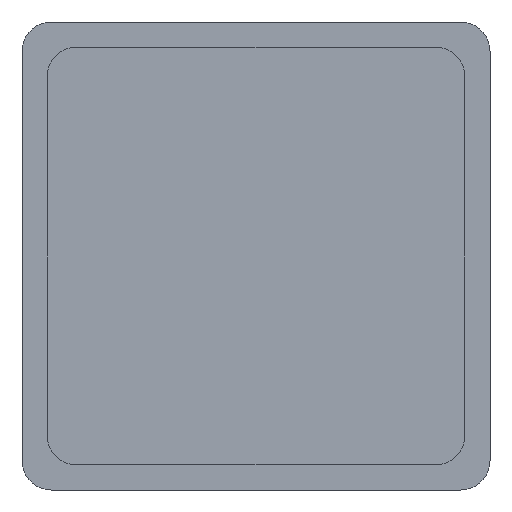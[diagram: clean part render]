
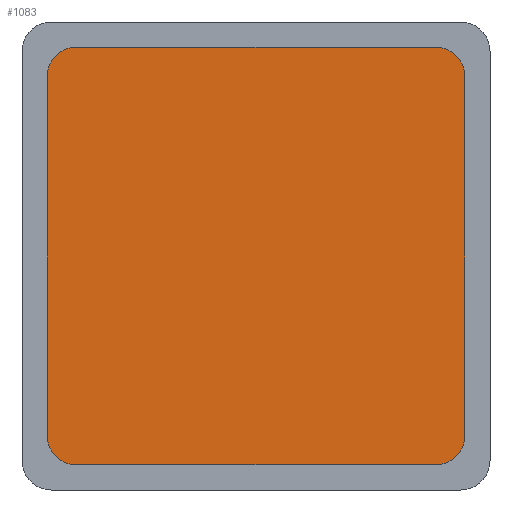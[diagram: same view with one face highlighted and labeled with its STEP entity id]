
A CAD part, front view. The second image highlights one B-rep face of the part: STEP entity #1083.
In plain terms, the highlighted planar face has unit normal (0, -1, 0).
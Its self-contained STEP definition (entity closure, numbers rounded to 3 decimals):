
#5 = VERTEX_POINT ( 'NONE', #829 ) ;
#30 = LINE ( 'NONE', #42, #1212 ) ;
#42 = CARTESIAN_POINT ( 'NONE',  ( -7.075, -2., 7.075 ) ) ;
#49 = DIRECTION ( 'NONE',  ( 0., 0., -1. ) ) ;
#78 = CARTESIAN_POINT ( 'NONE',  ( -6.075, -2., -7.075 ) ) ;
#103 = DIRECTION ( 'NONE',  ( 0., -1., 0. ) ) ;
#104 = VECTOR ( 'NONE', #1039, 1000. ) ;
#136 = VERTEX_POINT ( 'NONE', #349 ) ;
#152 = VERTEX_POINT ( 'NONE', #78 ) ;
#185 = CARTESIAN_POINT ( 'NONE',  ( 7.075, -2., -6.075 ) ) ;
#218 = CARTESIAN_POINT ( 'NONE',  ( 6.075, -2., 6.075 ) ) ;
#238 = LINE ( 'NONE', #524, #822 ) ;
#263 = AXIS2_PLACEMENT_3D ( 'NONE', #407, #889, #1198 ) ;
#273 = DIRECTION ( 'NONE',  ( 0., -1., 0. ) ) ;
#275 = EDGE_CURVE ( 'NONE', #152, #675, #618, .T. ) ;
#282 = ORIENTED_EDGE ( 'NONE', *, *, #970, .T. ) ;
#283 = EDGE_CURVE ( 'NONE', #704, #1247, #695, .T. ) ;
#294 = EDGE_CURVE ( 'NONE', #1247, #136, #238, .T. ) ;
#303 = FACE_OUTER_BOUND ( 'NONE', #1115, .T. ) ;
#313 = AXIS2_PLACEMENT_3D ( 'NONE', #821, #1246, #641 ) ;
#324 = DIRECTION ( 'NONE',  ( 0., -1., 0. ) ) ;
#349 = CARTESIAN_POINT ( 'NONE',  ( -6.075, -2., 7.075 ) ) ;
#400 = CARTESIAN_POINT ( 'NONE',  ( -7.075, -2., 6.075 ) ) ;
#402 = CARTESIAN_POINT ( 'NONE',  ( 7.075, -2., 6.075 ) ) ;
#407 = CARTESIAN_POINT ( 'NONE',  ( 0., -2., 0. ) ) ;
#441 = ORIENTED_EDGE ( 'NONE', *, *, #1170, .T. ) ;
#463 = ORIENTED_EDGE ( 'NONE', *, *, #275, .T. ) ;
#468 = CIRCLE ( 'NONE', #1192, 1. ) ;
#510 = CARTESIAN_POINT ( 'NONE',  ( 6.075, -2., 7.075 ) ) ;
#515 = LINE ( 'NONE', #1219, #826 ) ;
#524 = CARTESIAN_POINT ( 'NONE',  ( -7.075, -2., 7.075 ) ) ;
#533 = CIRCLE ( 'NONE', #1283, 1. ) ;
#542 = DIRECTION ( 'NONE',  ( 0., 0., -1. ) ) ;
#569 = ORIENTED_EDGE ( 'NONE', *, *, #778, .T. ) ;
#580 = DIRECTION ( 'NONE',  ( 0., 0., -1. ) ) ;
#618 = LINE ( 'NONE', #1248, #104 ) ;
#641 = DIRECTION ( 'NONE',  ( 0., 0., -1. ) ) ;
#657 = AXIS2_PLACEMENT_3D ( 'NONE', #218, #324, #542 ) ;
#675 = VERTEX_POINT ( 'NONE', #720 ) ;
#695 = CIRCLE ( 'NONE', #657, 1. ) ;
#699 = CIRCLE ( 'NONE', #313, 1. ) ;
#704 = VERTEX_POINT ( 'NONE', #402 ) ;
#720 = CARTESIAN_POINT ( 'NONE',  ( 6.075, -2., -7.075 ) ) ;
#723 = DIRECTION ( 'NONE',  ( 0., 0., 1. ) ) ;
#731 = DIRECTION ( 'NONE',  ( -1., 0., 0. ) ) ;
#763 = ORIENTED_EDGE ( 'NONE', *, *, #283, .T. ) ;
#778 = EDGE_CURVE ( 'NONE', #1200, #5, #30, .T. ) ;
#821 = CARTESIAN_POINT ( 'NONE',  ( -6.075, -2., 6.075 ) ) ;
#822 = VECTOR ( 'NONE', #731, 1000. ) ;
#826 = VECTOR ( 'NONE', #723, 1000. ) ;
#829 = CARTESIAN_POINT ( 'NONE',  ( -7.075, -2., -6.075 ) ) ;
#882 = ORIENTED_EDGE ( 'NONE', *, *, #1214, .T. ) ;
#884 = EDGE_CURVE ( 'NONE', #675, #918, #533, .T. ) ;
#889 = DIRECTION ( 'NONE',  ( 0., -1., 0. ) ) ;
#918 = VERTEX_POINT ( 'NONE', #185 ) ;
#970 = EDGE_CURVE ( 'NONE', #5, #152, #468, .T. ) ;
#975 = CARTESIAN_POINT ( 'NONE',  ( 6.075, -2., -6.075 ) ) ;
#991 = PLANE ( 'NONE',  #263 ) ;
#1004 = CARTESIAN_POINT ( 'NONE',  ( -6.075, -2., -6.075 ) ) ;
#1039 = DIRECTION ( 'NONE',  ( 1., 0., 0. ) ) ;
#1083 = ADVANCED_FACE ( 'NONE', ( #303 ), #991, .T. ) ;
#1115 = EDGE_LOOP ( 'NONE', ( #569, #282, #463, #1163, #882, #763, #1218, #441 ) ) ;
#1163 = ORIENTED_EDGE ( 'NONE', *, *, #884, .T. ) ;
#1170 = EDGE_CURVE ( 'NONE', #136, #1200, #699, .T. ) ;
#1192 = AXIS2_PLACEMENT_3D ( 'NONE', #1004, #103, #1204 ) ;
#1198 = DIRECTION ( 'NONE',  ( 0., 0., -1. ) ) ;
#1200 = VERTEX_POINT ( 'NONE', #400 ) ;
#1204 = DIRECTION ( 'NONE',  ( 0., 0., -1. ) ) ;
#1212 = VECTOR ( 'NONE', #49, 1000. ) ;
#1214 = EDGE_CURVE ( 'NONE', #918, #704, #515, .T. ) ;
#1218 = ORIENTED_EDGE ( 'NONE', *, *, #294, .T. ) ;
#1219 = CARTESIAN_POINT ( 'NONE',  ( 7.075, -2., 7.075 ) ) ;
#1246 = DIRECTION ( 'NONE',  ( 0., -1., 0. ) ) ;
#1247 = VERTEX_POINT ( 'NONE', #510 ) ;
#1248 = CARTESIAN_POINT ( 'NONE',  ( -7.075, -2., -7.075 ) ) ;
#1283 = AXIS2_PLACEMENT_3D ( 'NONE', #975, #273, #580 ) ;
